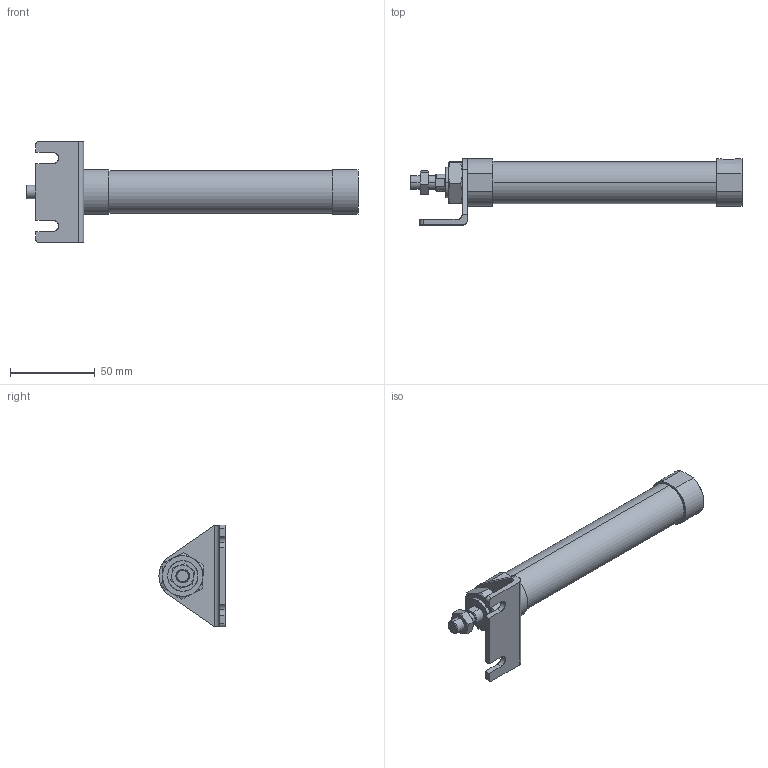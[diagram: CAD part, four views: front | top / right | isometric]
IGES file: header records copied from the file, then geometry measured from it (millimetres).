
Start section: SolidWorks IGES file using analytic representation for surfaces
Global section: file name: C:\Users\Toshiba\Desktop\JGND1-20-50-L.IGS; native system: SolidWorks 2014; preprocessor: SolidWorks 2014; author: Toshiba; date: 160804.101431; units: millimetre
Bounding box: 196 x 39 x 60 mm (x, y, z)
Surface area: 24329.7 mm2 (no closed solid volume)
Topology: 0 solids, 0 shells, 108 faces, 1708 edges, 1708 vertices
Faces by surface type: bspline 72, revolution 36
